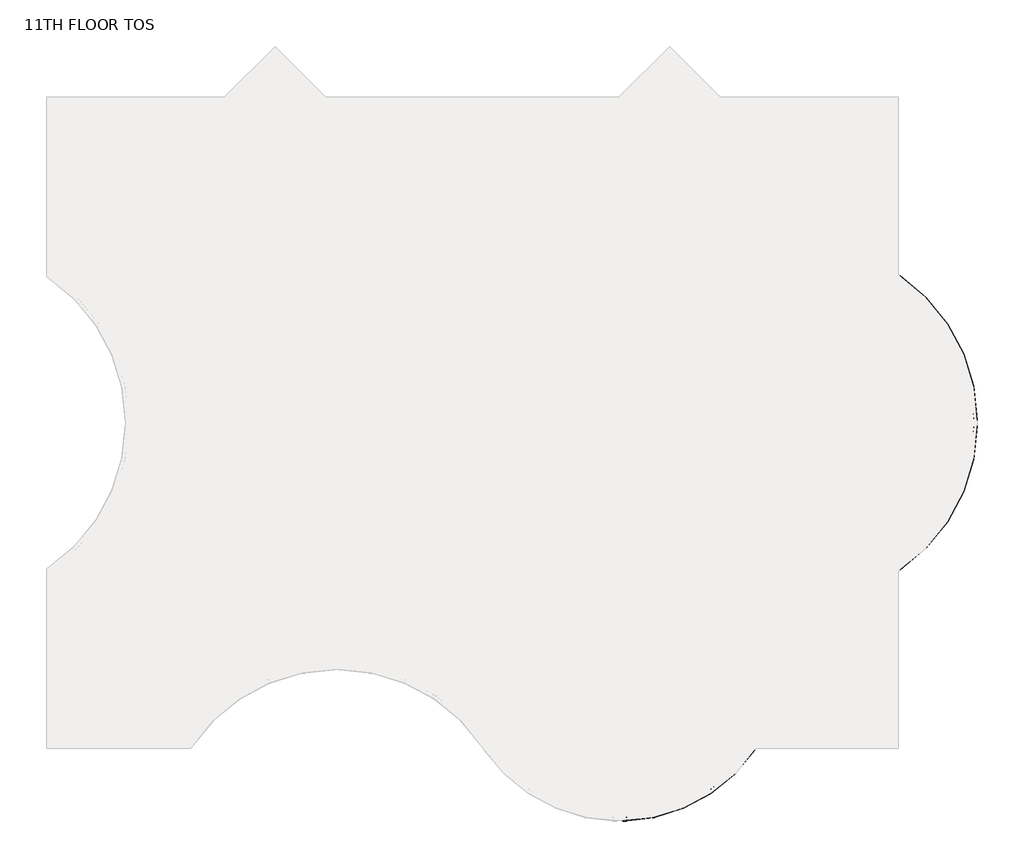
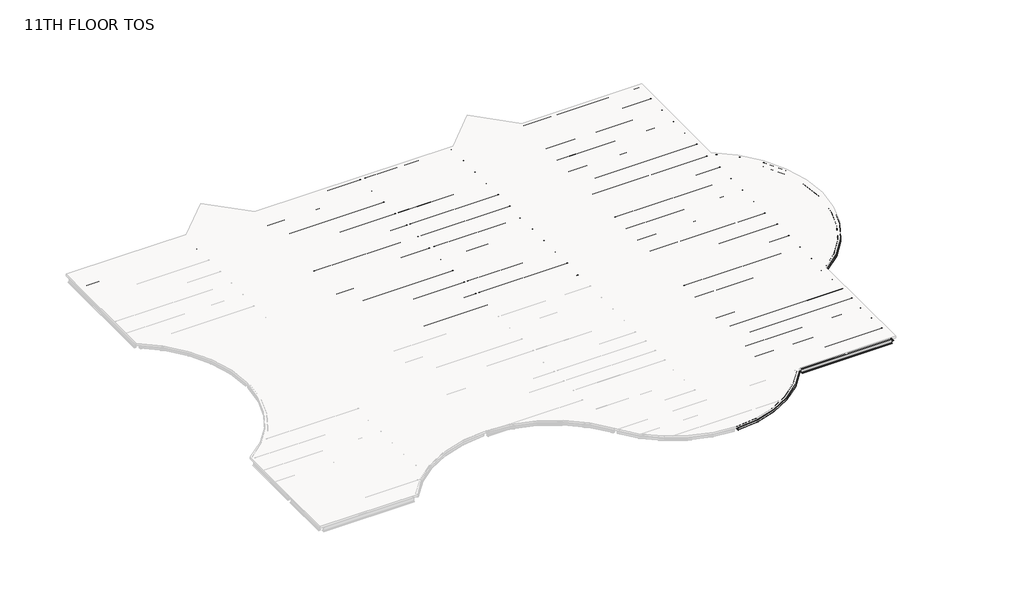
# One storey, part 2 of 2: 110 beams.
"""IFC4 building model written with IfcOpenShell, lengths in millimetres."""

from ifc_helpers import new_model, si_unit, origin, place, context, project, spatial, transform, mapped, element, save
from components import m_hss_square_hss203_2x203_2x9_5_28e91a4e, m_hss_square_hss203_2x203_2x9_5_f31329aa, m_hss_square_hss203_2x203_2x9_5_63507dff, ub_universal_beams_ub254x102x28_7812688d, ub_universal_beams_ub254x102x28_4a38c177, ub_universal_beams_ub305x165x40_c4d0385b, ub_universal_beams_ub305x165x40_19965e16, ub_universal_beams_ub305x165x40_d3abc31d, ub_universal_beams_ub305x165x40_0c73730f, ub_universal_beams_ub305x165x40_2a963f0c, ub_universal_beams_ub305x165x40_9ce7f2ee, ub_universal_beams_ub305x165x40_d184adfd, ub_universal_beams_ub305x165x40_bc7dc938, ub_universal_beams_ub305x165x40_b4233d25, ub_universal_beams_ub356x171x51_c708c058, ub_universal_beams_ub356x171x51_ef72dcdd, ub_universal_beams_ub356x171x51_10b3c54f, ub_universal_beams_ub356x171x51_4c9fd821, ub_universal_beams_ub356x171x51_d1a87c3c, ub_universal_beams_ub356x171x51_fa75724b, ub_universal_beams_ub356x171x51_68db896e, ub_universal_beams_ub356x171x51_c634c4a6, ub_universal_beams_ub356x171x51_995f1560, ub_universal_beams_ub356x171x51_dfc36663, ub_universal_beams_ub356x171x51_11d6b780, ub_universal_beams_ub356x171x51_76b2d20b, ub_universal_beams_ub356x171x51_145ecd4b, ub_universal_beams_ub356x171x51_c7dff8d2, ub_universal_beams_ub356x171x51_8a345439, ub_universal_beams_ub356x171x51_6da510e9, ub_universal_beams_ub356x171x51_e97f8d2e, ub_universal_beams_ub356x171x51_a38b99de, ub_universal_beams_ub356x171x51_d8f4cdde, ub_universal_beams_ub356x171x51_475301e6, ub_universal_beams_ub356x171x51_c03c70fb, ub_universal_beams_ub356x171x51_741bae58

model = new_model("IFC4")

# Units and contexts
model_context = context("Model", 3, world=origin())
ifc_project = project(units=[si_unit("LENGTHUNIT", "METRE", prefix="MILLI")], contexts=[model_context])

# Site, building, storey
site = spatial("IfcSite", under=ifc_project)
building = spatial("IfcBuilding", under=site)
storey = spatial("IfcBuildingStorey", under=building, Name="11TH FLOOR TOS", Elevation=50139.6)

# Beams
placement = place(None, origin())
m_hss_square_hss203_2x203_2x9_5_shape = m_hss_square_hss203_2x203_2x9_5_28e91a4e(model_context)
element("IfcBeam", 1, ObjectType="M_HSS Square : HSS203.2X203.2X9.5", at=placement, inside=storey, context=model_context, shape_type="MappedRepresentation", body=[
    mapped(m_hss_square_hss203_2x203_2x9_5_shape, transform((44027.575, 24539.575, 50038.1), x_axis=(0.8332810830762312, -0.5528495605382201, 0.0), y_axis=(0.5528495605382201, 0.8332810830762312, 0.0), z_axis=(0.0, 0.0, 1.0))),
])
m_hss_square_hss203_2x203_2x9_5_2_shape = m_hss_square_hss203_2x203_2x9_5_f31329aa(model_context)
element("IfcBeam", 2, ObjectType="M_HSS Square : HSS203.2X203.2X9.5", at=placement, inside=storey, context=model_context, shape_type="MappedRepresentation", body=[
    mapped(m_hss_square_hss203_2x203_2x9_5_2_shape, transform((44027.575, 9299.575, 50038.1), x_axis=(0.8332810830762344, 0.5528495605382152, 0.0), y_axis=(-0.5528495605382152, 0.8332810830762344, 0.0), z_axis=(0.0, 0.0, 1.0))),
])
m_hss_square_hss203_2x203_2x9_5_3_shape = m_hss_square_hss203_2x203_2x9_5_63507dff(model_context)
element("IfcBeam", 3, ObjectType="M_HSS Square : HSS203.2X203.2X9.5", at=placement, inside=storey, context=model_context, shape_type="MappedRepresentation", body=[
    mapped(m_hss_square_hss203_2x203_2x9_5_3_shape, transform((36716.575, 155.575, 50038.1), x_axis=(-0.5530174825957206, -0.8331696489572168, 0.0), y_axis=(0.8331696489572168, -0.5530174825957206, 0.0), z_axis=(0.0, 0.0, 1.0))),
])
ub_universal_beams_ub254x102x28_shape = ub_universal_beams_ub254x102x28_7812688d(model_context)
element("IfcBeam", 4, ObjectType="UB-Universal Beams : UB254x102x28", at=placement, inside=storey, context=model_context, shape_type="MappedRepresentation", body=[
    mapped(ub_universal_beams_ub254x102x28_shape, transform((10592.575, 34976.575, 50009.4), x_axis=(0.7071067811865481, 0.7071067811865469, 0.0), y_axis=(-0.7071067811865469, 0.7071067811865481, 0.0), z_axis=(0.0, 0.0, 1.0))),
])
element("IfcBeam", 5, ObjectType="UB-Universal Beams : UB254x102x28", at=placement, inside=storey, context=model_context, shape_type="MappedRepresentation", body=[
    mapped(ub_universal_beams_ub254x102x28_shape, transform((31004.575, 34976.575, 50009.4), x_axis=(0.7071067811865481, 0.7071067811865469, 0.0), y_axis=(-0.7071067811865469, 0.7071067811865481, 0.0), z_axis=(0.0, 0.0, 1.0))),
])
ub_universal_beams_ub254x102x28_2_shape = ub_universal_beams_ub254x102x28_4a38c177(model_context)
element("IfcBeam", 6, ObjectType="UB-Universal Beams : UB254x102x28", at=placement, inside=storey, context=model_context, shape_type="MappedRepresentation", body=[
    mapped(ub_universal_beams_ub254x102x28_2_shape, transform((13178.575, 34976.575, 50009.4), x_axis=(0.707106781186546, -0.707106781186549, 0.0), y_axis=(0.707106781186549, 0.707106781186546, 0.0), z_axis=(0.0, 0.0, 1.0))),
])
element("IfcBeam", 7, ObjectType="UB-Universal Beams : UB254x102x28", at=placement, inside=storey, context=model_context, shape_type="MappedRepresentation", body=[
    mapped(ub_universal_beams_ub254x102x28_2_shape, transform((33590.575, 34976.575, 50009.4), x_axis=(0.7071067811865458, -0.7071067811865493, 0.0), y_axis=(0.7071067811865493, 0.7071067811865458, 0.0), z_axis=(0.0, 0.0, 1.0))),
])
ub_universal_beams_ub305x165x40_shape = ub_universal_beams_ub305x165x40_c4d0385b(model_context)
element("IfcBeam", 8, ObjectType="UB-Universal Beams : UB305x165x40", at=placement, inside=storey, context=model_context, shape_type="MappedRepresentation", body=[
    mapped(ub_universal_beams_ub305x165x40_shape, transform((4727.575, 32159.575, 49987.9), x_axis=(1.0, 0.0, 0.0), y_axis=(0.0, 1.0, 0.0), z_axis=(0.0, 0.0, 1.0))),
])
element("IfcBeam", 9, ObjectType="UB-Universal Beams : UB305x165x40", at=placement, inside=storey, context=model_context, shape_type="MappedRepresentation", body=[
    mapped(ub_universal_beams_ub305x165x40_shape, transform((39455.575, 32159.575, 49987.9), x_axis=(1.0, 0.0, 0.0), y_axis=(0.0, 1.0, 0.0), z_axis=(0.0, 0.0, 1.0))),
])
element("IfcBeam", 10, ObjectType="UB-Universal Beams : UB305x165x40", at=placement, inside=storey, context=model_context, shape_type="MappedRepresentation", body=[
    mapped(ub_universal_beams_ub305x165x40_shape, transform((39455.575, 30635.575, 49987.9), x_axis=(1.0, 0.0, 0.0), y_axis=(0.0, 1.0, 0.0), z_axis=(0.0, 0.0, 1.0))),
])
element("IfcBeam", 11, ObjectType="UB-Universal Beams : UB305x165x40", at=placement, inside=storey, context=model_context, shape_type="MappedRepresentation", body=[
    mapped(ub_universal_beams_ub305x165x40_shape, transform((39455.575, 29111.575, 49987.9), x_axis=(1.0, 0.0, 0.0), y_axis=(0.0, 1.0, 0.0), z_axis=(0.0, 0.0, 1.0))),
])
element("IfcBeam", 12, ObjectType="UB-Universal Beams : UB305x165x40", at=placement, inside=storey, context=model_context, shape_type="MappedRepresentation", body=[
    mapped(ub_universal_beams_ub305x165x40_shape, transform((39455.575, 27587.575, 49987.9), x_axis=(1.0, 0.0, 0.0), y_axis=(0.0, 1.0, 0.0), z_axis=(0.0, 0.0, 1.0))),
])
element("IfcBeam", 13, ObjectType="UB-Universal Beams : UB305x165x40", at=placement, inside=storey, context=model_context, shape_type="MappedRepresentation", body=[
    mapped(ub_universal_beams_ub305x165x40_shape, transform((39455.575, 26063.575, 49987.9), x_axis=(1.0, 0.0, 0.0), y_axis=(0.0, 1.0, 0.0), z_axis=(0.0, 0.0, 1.0))),
])
element("IfcBeam", 14, ObjectType="UB-Universal Beams : UB305x165x40", at=placement, inside=storey, context=model_context, shape_type="MappedRepresentation", body=[
    mapped(ub_universal_beams_ub305x165x40_shape, transform((39455.575, 23015.575, 49987.9), x_axis=(1.0, 0.0, 0.0), y_axis=(0.0, 1.0, 0.0), z_axis=(0.0, 0.0, 1.0))),
])
element("IfcBeam", 15, ObjectType="UB-Universal Beams : UB305x165x40", at=placement, inside=storey, context=model_context, shape_type="MappedRepresentation", body=[
    mapped(ub_universal_beams_ub305x165x40_shape, transform((39455.575, 21491.575, 49987.9), x_axis=(1.0, 0.0, 0.0), y_axis=(0.0, 1.0, 0.0), z_axis=(0.0, 0.0, 1.0))),
])
element("IfcBeam", 16, ObjectType="UB-Universal Beams : UB305x165x40", at=placement, inside=storey, context=model_context, shape_type="MappedRepresentation", body=[
    mapped(ub_universal_beams_ub305x165x40_shape, transform((39455.575, 19967.575, 49987.9), x_axis=(1.0, 0.0, 0.0), y_axis=(0.0, 1.0, 0.0), z_axis=(0.0, 0.0, 1.0))),
])
element("IfcBeam", 17, ObjectType="UB-Universal Beams : UB305x165x40", at=placement, inside=storey, context=model_context, shape_type="MappedRepresentation", body=[
    mapped(ub_universal_beams_ub305x165x40_shape, transform((39455.575, 18443.575, 49987.9), x_axis=(1.0, 0.0, 0.0), y_axis=(0.0, 1.0, 0.0), z_axis=(0.0, 0.0, 1.0))),
])
element("IfcBeam", 18, ObjectType="UB-Universal Beams : UB305x165x40", at=placement, inside=storey, context=model_context, shape_type="MappedRepresentation", body=[
    mapped(ub_universal_beams_ub305x165x40_shape, transform((39455.575, 15395.575, 49987.9), x_axis=(1.0, 0.0, 0.0), y_axis=(0.0, 1.0, 0.0), z_axis=(0.0, 0.0, 1.0))),
])
element("IfcBeam", 19, ObjectType="UB-Universal Beams : UB305x165x40", at=placement, inside=storey, context=model_context, shape_type="MappedRepresentation", body=[
    mapped(ub_universal_beams_ub305x165x40_shape, transform((39455.575, 13871.575, 49987.9), x_axis=(1.0, 0.0, 0.0), y_axis=(0.0, 1.0, 0.0), z_axis=(0.0, 0.0, 1.0))),
])
element("IfcBeam", 20, ObjectType="UB-Universal Beams : UB305x165x40", at=placement, inside=storey, context=model_context, shape_type="MappedRepresentation", body=[
    mapped(ub_universal_beams_ub305x165x40_shape, transform((39455.575, 12347.575, 49987.9), x_axis=(1.0, 0.0, 0.0), y_axis=(0.0, 1.0, 0.0), z_axis=(0.0, 0.0, 1.0))),
])
element("IfcBeam", 21, ObjectType="UB-Universal Beams : UB305x165x40", at=placement, inside=storey, context=model_context, shape_type="MappedRepresentation", body=[
    mapped(ub_universal_beams_ub305x165x40_shape, transform((39455.575, 10823.575, 49987.9), x_axis=(1.0, 0.0, 0.0), y_axis=(0.0, 1.0, 0.0), z_axis=(0.0, 0.0, 1.0))),
])
element("IfcBeam", 22, ObjectType="UB-Universal Beams : UB305x165x40", at=placement, inside=storey, context=model_context, shape_type="MappedRepresentation", body=[
    mapped(ub_universal_beams_ub305x165x40_shape, transform((39455.575, 5508.325, 49987.9), x_axis=(-1.0, 0.0, 0.0), y_axis=(0.0, -1.0, 0.0), z_axis=(0.0, 0.0, 1.0))),
])
element("IfcBeam", 23, ObjectType="UB-Universal Beams : UB305x165x40", at=placement, inside=storey, context=model_context, shape_type="MappedRepresentation", body=[
    mapped(ub_universal_beams_ub305x165x40_shape, transform((39455.575, 6772.075, 49987.9), x_axis=(-1.0, 0.0, 0.0), y_axis=(0.0, -1.0, 0.0), z_axis=(0.0, 0.0, 1.0))),
])
element("IfcBeam", 24, ObjectType="UB-Universal Beams : UB305x165x40", at=placement, inside=storey, context=model_context, shape_type="MappedRepresentation", body=[
    mapped(ub_universal_beams_ub305x165x40_shape, transform((39455.575, 8035.825, 49987.9), x_axis=(-1.0, 0.0, 0.0), y_axis=(0.0, -1.0, 0.0), z_axis=(0.0, 0.0, 1.0))),
])
element("IfcBeam", 25, ObjectType="UB-Universal Beams : UB305x165x40", at=placement, inside=storey, context=model_context, shape_type="MappedRepresentation", body=[
    mapped(ub_universal_beams_ub305x165x40_shape, transform((39455.575, 1518.575, 49987.9), x_axis=(-1.0, 0.0, 0.0), y_axis=(0.0, -1.0, 0.0), z_axis=(0.0, 0.0, 1.0))),
])
element("IfcBeam", 26, ObjectType="UB-Universal Beams : UB305x165x40", at=placement, inside=storey, context=model_context, shape_type="MappedRepresentation", body=[
    mapped(ub_universal_beams_ub305x165x40_shape, transform((39455.575, 2881.575, 49987.9), x_axis=(-1.0, 0.0, 0.0), y_axis=(0.0, -1.0, 0.0), z_axis=(0.0, 0.0, 1.0))),
])
ub_universal_beams_ub305x165x40_2_shape = ub_universal_beams_ub305x165x40_19965e16(model_context)
element("IfcBeam", 27, ObjectType="UB-Universal Beams : UB305x165x40", at=placement, inside=storey, context=model_context, shape_type="MappedRepresentation", body=[
    mapped(ub_universal_beams_ub305x165x40_2_shape, transform((11885.575, 34803.325, 49987.9), x_axis=(1.0, 0.0, 0.0), y_axis=(0.0, 1.0, 0.0), z_axis=(0.0, 0.0, 1.0))),
])
element("IfcBeam", 28, ObjectType="UB-Universal Beams : UB305x165x40", at=placement, inside=storey, context=model_context, shape_type="MappedRepresentation", body=[
    mapped(ub_universal_beams_ub305x165x40_2_shape, transform((32297.575, 34803.325, 49987.9), x_axis=(1.0, 0.0, 0.0), y_axis=(0.0, 1.0, 0.0), z_axis=(0.0, 0.0, 1.0))),
])
ub_universal_beams_ub305x165x40_3_shape = ub_universal_beams_ub305x165x40_d3abc31d(model_context)
element("IfcBeam", 29, ObjectType="UB-Universal Beams : UB305x165x40", at=placement, inside=storey, context=model_context, shape_type="MappedRepresentation", body=[
    mapped(ub_universal_beams_ub305x165x40_3_shape, transform((11885.575, 33337.075, 49987.9), x_axis=(1.0, 0.0, 0.0), y_axis=(0.0, 1.0, 0.0), z_axis=(0.0, 0.0, 1.0))),
])
element("IfcBeam", 30, ObjectType="UB-Universal Beams : UB305x165x40", at=placement, inside=storey, context=model_context, shape_type="MappedRepresentation", body=[
    mapped(ub_universal_beams_ub305x165x40_3_shape, transform((11885.575, 31870.825, 49987.9), x_axis=(1.0, 0.0, 0.0), y_axis=(0.0, 1.0, 0.0), z_axis=(0.0, 0.0, 1.0))),
])
element("IfcBeam", 31, ObjectType="UB-Universal Beams : UB305x165x40", at=placement, inside=storey, context=model_context, shape_type="MappedRepresentation", body=[
    mapped(ub_universal_beams_ub305x165x40_3_shape, transform((11885.575, 30404.575, 49987.9), x_axis=(1.0, 0.0, 0.0), y_axis=(0.0, 1.0, 0.0), z_axis=(0.0, 0.0, 1.0))),
])
element("IfcBeam", 32, ObjectType="UB-Universal Beams : UB305x165x40", at=placement, inside=storey, context=model_context, shape_type="MappedRepresentation", body=[
    mapped(ub_universal_beams_ub305x165x40_3_shape, transform((32297.575, 33337.075, 49987.9), x_axis=(1.0, 0.0, 0.0), y_axis=(0.0, 1.0, 0.0), z_axis=(0.0, 0.0, 1.0))),
])
element("IfcBeam", 33, ObjectType="UB-Universal Beams : UB305x165x40", at=placement, inside=storey, context=model_context, shape_type="MappedRepresentation", body=[
    mapped(ub_universal_beams_ub305x165x40_3_shape, transform((32297.575, 31870.825, 49987.9), x_axis=(1.0, 0.0, 0.0), y_axis=(0.0, 1.0, 0.0), z_axis=(0.0, 0.0, 1.0))),
])
element("IfcBeam", 34, ObjectType="UB-Universal Beams : UB305x165x40", at=placement, inside=storey, context=model_context, shape_type="MappedRepresentation", body=[
    mapped(ub_universal_beams_ub305x165x40_3_shape, transform((32297.575, 30404.575, 49987.9), x_axis=(1.0, 0.0, 0.0), y_axis=(0.0, 1.0, 0.0), z_axis=(0.0, 0.0, 1.0))),
])
element("IfcBeam", 35, ObjectType="UB-Universal Beams : UB305x165x40", at=placement, inside=storey, context=model_context, shape_type="MappedRepresentation", body=[
    mapped(ub_universal_beams_ub305x165x40_3_shape, transform((32297.575, 28938.325, 49987.9), x_axis=(1.0, 0.0, 0.0), y_axis=(0.0, 1.0, 0.0), z_axis=(0.0, 0.0, 1.0))),
])
element("IfcBeam", 36, ObjectType="UB-Universal Beams : UB305x165x40", at=placement, inside=storey, context=model_context, shape_type="MappedRepresentation", body=[
    mapped(ub_universal_beams_ub305x165x40_3_shape, transform((32297.575, 27472.075, 49987.9), x_axis=(1.0, 0.0, 0.0), y_axis=(0.0, 1.0, 0.0), z_axis=(0.0, 0.0, 1.0))),
])
element("IfcBeam", 37, ObjectType="UB-Universal Beams : UB305x165x40", at=placement, inside=storey, context=model_context, shape_type="MappedRepresentation", body=[
    mapped(ub_universal_beams_ub305x165x40_3_shape, transform((32297.575, 26005.825, 49987.9), x_axis=(1.0, 0.0, 0.0), y_axis=(0.0, 1.0, 0.0), z_axis=(0.0, 0.0, 1.0))),
])
element("IfcBeam", 38, ObjectType="UB-Universal Beams : UB305x165x40", at=placement, inside=storey, context=model_context, shape_type="MappedRepresentation", body=[
    mapped(ub_universal_beams_ub305x165x40_3_shape, transform((32297.575, 1518.575, 49987.9), x_axis=(-1.0, 0.0, 0.0), y_axis=(0.0, -1.0, 0.0), z_axis=(0.0, 0.0, 1.0))),
])
element("IfcBeam", 39, ObjectType="UB-Universal Beams : UB305x165x40", at=placement, inside=storey, context=model_context, shape_type="MappedRepresentation", body=[
    mapped(ub_universal_beams_ub305x165x40_3_shape, transform((32297.575, 2881.575, 49987.9), x_axis=(-1.0, 0.0, 0.0), y_axis=(0.0, -1.0, 0.0), z_axis=(0.0, 0.0, 1.0))),
])
element("IfcBeam", 40, ObjectType="UB-Universal Beams : UB305x165x40", at=placement, inside=storey, context=model_context, shape_type="MappedRepresentation", body=[
    mapped(ub_universal_beams_ub305x165x40_3_shape, transform((32297.575, 5508.325, 49987.9), x_axis=(-1.0, 0.0, 0.0), y_axis=(0.0, -1.0, 0.0), z_axis=(0.0, 0.0, 1.0))),
])
element("IfcBeam", 41, ObjectType="UB-Universal Beams : UB305x165x40", at=placement, inside=storey, context=model_context, shape_type="MappedRepresentation", body=[
    mapped(ub_universal_beams_ub305x165x40_3_shape, transform((32297.575, 6772.075, 49987.9), x_axis=(-1.0, 0.0, 0.0), y_axis=(0.0, -1.0, 0.0), z_axis=(0.0, 0.0, 1.0))),
])
element("IfcBeam", 42, ObjectType="UB-Universal Beams : UB305x165x40", at=placement, inside=storey, context=model_context, shape_type="MappedRepresentation", body=[
    mapped(ub_universal_beams_ub305x165x40_3_shape, transform((32297.575, 8035.825, 49987.9), x_axis=(-1.0, 0.0, 0.0), y_axis=(0.0, -1.0, 0.0), z_axis=(0.0, 0.0, 1.0))),
])
element("IfcBeam", 43, ObjectType="UB-Universal Beams : UB305x165x40", at=placement, inside=storey, context=model_context, shape_type="MappedRepresentation", body=[
    mapped(ub_universal_beams_ub305x165x40_3_shape, transform((32297.575, 15395.575, 49987.9), x_axis=(1.0, 0.0, 0.0), y_axis=(0.0, 1.0, 0.0), z_axis=(0.0, 0.0, 1.0))),
])
element("IfcBeam", 44, ObjectType="UB-Universal Beams : UB305x165x40", at=placement, inside=storey, context=model_context, shape_type="MappedRepresentation", body=[
    mapped(ub_universal_beams_ub305x165x40_3_shape, transform((32297.575, 13871.575, 49987.9), x_axis=(1.0, 0.0, 0.0), y_axis=(0.0, 1.0, 0.0), z_axis=(0.0, 0.0, 1.0))),
])
element("IfcBeam", 45, ObjectType="UB-Universal Beams : UB305x165x40", at=placement, inside=storey, context=model_context, shape_type="MappedRepresentation", body=[
    mapped(ub_universal_beams_ub305x165x40_3_shape, transform((32297.575, 12347.575, 49987.9), x_axis=(1.0, 0.0, 0.0), y_axis=(0.0, 1.0, 0.0), z_axis=(0.0, 0.0, 1.0))),
])
element("IfcBeam", 46, ObjectType="UB-Universal Beams : UB305x165x40", at=placement, inside=storey, context=model_context, shape_type="MappedRepresentation", body=[
    mapped(ub_universal_beams_ub305x165x40_3_shape, transform((32297.575, 10823.575, 49987.9), x_axis=(1.0, 0.0, 0.0), y_axis=(0.0, 1.0, 0.0), z_axis=(0.0, 0.0, 1.0))),
])
element("IfcBeam", 47, ObjectType="UB-Universal Beams : UB305x165x40", at=placement, inside=storey, context=model_context, shape_type="MappedRepresentation", body=[
    mapped(ub_universal_beams_ub305x165x40_3_shape, transform((32297.575, 23015.575, 49987.9), x_axis=(1.0, 0.0, 0.0), y_axis=(0.0, 1.0, 0.0), z_axis=(0.0, 0.0, 1.0))),
])
element("IfcBeam", 48, ObjectType="UB-Universal Beams : UB305x165x40", at=placement, inside=storey, context=model_context, shape_type="MappedRepresentation", body=[
    mapped(ub_universal_beams_ub305x165x40_3_shape, transform((32297.575, 21491.575, 49987.9), x_axis=(1.0, 0.0, 0.0), y_axis=(0.0, 1.0, 0.0), z_axis=(0.0, 0.0, 1.0))),
])
element("IfcBeam", 49, ObjectType="UB-Universal Beams : UB305x165x40", at=placement, inside=storey, context=model_context, shape_type="MappedRepresentation", body=[
    mapped(ub_universal_beams_ub305x165x40_3_shape, transform((32297.575, 19967.575, 49987.9), x_axis=(1.0, 0.0, 0.0), y_axis=(0.0, 1.0, 0.0), z_axis=(0.0, 0.0, 1.0))),
])
element("IfcBeam", 50, ObjectType="UB-Universal Beams : UB305x165x40", at=placement, inside=storey, context=model_context, shape_type="MappedRepresentation", body=[
    mapped(ub_universal_beams_ub305x165x40_3_shape, transform((32297.575, 18443.575, 49987.9), x_axis=(1.0, 0.0, 0.0), y_axis=(0.0, 1.0, 0.0), z_axis=(0.0, 0.0, 1.0))),
])
ub_universal_beams_ub305x165x40_4_shape = ub_universal_beams_ub305x165x40_0c73730f(model_context)
element("IfcBeam", 51, ObjectType="UB-Universal Beams : UB305x165x40", at=placement, inside=storey, context=model_context, shape_type="MappedRepresentation", body=[
    mapped(ub_universal_beams_ub305x165x40_4_shape, transform((18591.075, 32159.575, 49987.9), x_axis=(1.0, 0.0, 0.0), y_axis=(0.0, 1.0, 0.0), z_axis=(0.0, 0.0, 1.0))),
])
element("IfcBeam", 52, ObjectType="UB-Universal Beams : UB305x165x40", at=placement, inside=storey, context=model_context, shape_type="MappedRepresentation", body=[
    mapped(ub_universal_beams_ub305x165x40_4_shape, transform((18591.075, 30635.575, 49987.9), x_axis=(1.0, 0.0, 0.0), y_axis=(0.0, 1.0, 0.0), z_axis=(0.0, 0.0, 1.0))),
])
element("IfcBeam", 53, ObjectType="UB-Universal Beams : UB305x165x40", at=placement, inside=storey, context=model_context, shape_type="MappedRepresentation", body=[
    mapped(ub_universal_beams_ub305x165x40_4_shape, transform((18591.075, 29111.575, 49987.9), x_axis=(1.0, 0.0, 0.0), y_axis=(0.0, 1.0, 0.0), z_axis=(0.0, 0.0, 1.0))),
])
element("IfcBeam", 54, ObjectType="UB-Universal Beams : UB305x165x40", at=placement, inside=storey, context=model_context, shape_type="MappedRepresentation", body=[
    mapped(ub_universal_beams_ub305x165x40_4_shape, transform((18591.075, 27587.575, 49987.9), x_axis=(1.0, 0.0, 0.0), y_axis=(0.0, 1.0, 0.0), z_axis=(0.0, 0.0, 1.0))),
])
element("IfcBeam", 55, ObjectType="UB-Universal Beams : UB305x165x40", at=placement, inside=storey, context=model_context, shape_type="MappedRepresentation", body=[
    mapped(ub_universal_beams_ub305x165x40_4_shape, transform((18591.075, 26063.575, 49987.9), x_axis=(1.0, 0.0, 0.0), y_axis=(0.0, 1.0, 0.0), z_axis=(0.0, 0.0, 1.0))),
])
element("IfcBeam", 56, ObjectType="UB-Universal Beams : UB305x165x40", at=placement, inside=storey, context=model_context, shape_type="MappedRepresentation", body=[
    mapped(ub_universal_beams_ub305x165x40_4_shape, transform((18591.075, 23015.575, 49987.9), x_axis=(1.0, 0.0, 0.0), y_axis=(0.0, 1.0, 0.0), z_axis=(0.0, 0.0, 1.0))),
])
element("IfcBeam", 57, ObjectType="UB-Universal Beams : UB305x165x40", at=placement, inside=storey, context=model_context, shape_type="MappedRepresentation", body=[
    mapped(ub_universal_beams_ub305x165x40_4_shape, transform((18591.075, 21491.575, 49987.9), x_axis=(1.0, 0.0, 0.0), y_axis=(0.0, 1.0, 0.0), z_axis=(0.0, 0.0, 1.0))),
])
element("IfcBeam", 58, ObjectType="UB-Universal Beams : UB305x165x40", at=placement, inside=storey, context=model_context, shape_type="MappedRepresentation", body=[
    mapped(ub_universal_beams_ub305x165x40_4_shape, transform((18591.075, 19967.575, 49987.9), x_axis=(1.0, 0.0, 0.0), y_axis=(0.0, 1.0, 0.0), z_axis=(0.0, 0.0, 1.0))),
])
element("IfcBeam", 59, ObjectType="UB-Universal Beams : UB305x165x40", at=placement, inside=storey, context=model_context, shape_type="MappedRepresentation", body=[
    mapped(ub_universal_beams_ub305x165x40_4_shape, transform((18591.075, 18443.575, 49987.9), x_axis=(1.0, 0.0, 0.0), y_axis=(0.0, 1.0, 0.0), z_axis=(0.0, 0.0, 1.0))),
])
ub_universal_beams_ub305x165x40_5_shape = ub_universal_beams_ub305x165x40_2a963f0c(model_context)
element("IfcBeam", 60, ObjectType="UB-Universal Beams : UB305x165x40", at=placement, inside=storey, context=model_context, shape_type="MappedRepresentation", body=[
    mapped(ub_universal_beams_ub305x165x40_5_shape, transform((26211.075, 32159.575, 49987.9), x_axis=(1.0, 0.0, 0.0), y_axis=(0.0, 1.0, 0.0), z_axis=(0.0, 0.0, 1.0))),
])
element("IfcBeam", 61, ObjectType="UB-Universal Beams : UB305x165x40", at=placement, inside=storey, context=model_context, shape_type="MappedRepresentation", body=[
    mapped(ub_universal_beams_ub305x165x40_5_shape, transform((26211.075, 30635.575, 49987.9), x_axis=(1.0, 0.0, 0.0), y_axis=(0.0, 1.0, 0.0), z_axis=(0.0, 0.0, 1.0))),
])
element("IfcBeam", 62, ObjectType="UB-Universal Beams : UB305x165x40", at=placement, inside=storey, context=model_context, shape_type="MappedRepresentation", body=[
    mapped(ub_universal_beams_ub305x165x40_5_shape, transform((26211.075, 29111.575, 49987.9), x_axis=(1.0, 0.0, 0.0), y_axis=(0.0, 1.0, 0.0), z_axis=(0.0, 0.0, 1.0))),
])
element("IfcBeam", 63, ObjectType="UB-Universal Beams : UB305x165x40", at=placement, inside=storey, context=model_context, shape_type="MappedRepresentation", body=[
    mapped(ub_universal_beams_ub305x165x40_5_shape, transform((26211.075, 27587.575, 49987.9), x_axis=(1.0, 0.0, 0.0), y_axis=(0.0, 1.0, 0.0), z_axis=(0.0, 0.0, 1.0))),
])
element("IfcBeam", 64, ObjectType="UB-Universal Beams : UB305x165x40", at=placement, inside=storey, context=model_context, shape_type="MappedRepresentation", body=[
    mapped(ub_universal_beams_ub305x165x40_5_shape, transform((26211.075, 26063.575, 49987.9), x_axis=(1.0, 0.0, 0.0), y_axis=(0.0, 1.0, 0.0), z_axis=(0.0, 0.0, 1.0))),
])
element("IfcBeam", 65, ObjectType="UB-Universal Beams : UB305x165x40", at=placement, inside=storey, context=model_context, shape_type="MappedRepresentation", body=[
    mapped(ub_universal_beams_ub305x165x40_5_shape, transform((26211.075, 23015.575, 49987.9), x_axis=(1.0, 0.0, 0.0), y_axis=(0.0, 1.0, 0.0), z_axis=(0.0, 0.0, 1.0))),
])
element("IfcBeam", 66, ObjectType="UB-Universal Beams : UB305x165x40", at=placement, inside=storey, context=model_context, shape_type="MappedRepresentation", body=[
    mapped(ub_universal_beams_ub305x165x40_5_shape, transform((26211.075, 21491.575, 49987.9), x_axis=(1.0, 0.0, 0.0), y_axis=(0.0, 1.0, 0.0), z_axis=(0.0, 0.0, 1.0))),
])
element("IfcBeam", 67, ObjectType="UB-Universal Beams : UB305x165x40", at=placement, inside=storey, context=model_context, shape_type="MappedRepresentation", body=[
    mapped(ub_universal_beams_ub305x165x40_5_shape, transform((26211.075, 19967.575, 49987.9), x_axis=(1.0, 0.0, 0.0), y_axis=(0.0, 1.0, 0.0), z_axis=(0.0, 0.0, 1.0))),
])
element("IfcBeam", 68, ObjectType="UB-Universal Beams : UB305x165x40", at=placement, inside=storey, context=model_context, shape_type="MappedRepresentation", body=[
    mapped(ub_universal_beams_ub305x165x40_5_shape, transform((26211.075, 18443.575, 49987.9), x_axis=(1.0, 0.0, 0.0), y_axis=(0.0, 1.0, 0.0), z_axis=(0.0, 0.0, 1.0))),
])
ub_universal_beams_ub305x165x40_6_shape = ub_universal_beams_ub305x165x40_9ce7f2ee(model_context)
element("IfcBeam", 69, ObjectType="UB-Universal Beams : UB305x165x40", at=placement, inside=storey, context=model_context, shape_type="MappedRepresentation", body=[
    mapped(ub_universal_beams_ub305x165x40_6_shape, transform((44907.9405309, 23015.575, 49987.9), x_axis=(1.0, 0.0, 0.0), y_axis=(0.0, 1.0, 0.0), z_axis=(0.0, 0.0, 1.0))),
])
element("IfcBeam", 70, ObjectType="UB-Universal Beams : UB305x165x40", at=placement, inside=storey, context=model_context, shape_type="MappedRepresentation", body=[
    mapped(ub_universal_beams_ub305x165x40_6_shape, transform((44907.9405309, 10823.575, 49987.9), x_axis=(1.0, 0.0, 0.0), y_axis=(0.0, 1.0, 0.0), z_axis=(0.0, 0.0, 1.0))),
])
ub_universal_beams_ub305x165x40_7_shape = ub_universal_beams_ub305x165x40_d184adfd(model_context)
element("IfcBeam", 71, ObjectType="UB-Universal Beams : UB305x165x40", at=placement, inside=storey, context=model_context, shape_type="MappedRepresentation", body=[
    mapped(ub_universal_beams_ub305x165x40_7_shape, transform((45459.5874928, 21491.575, 49987.9), x_axis=(1.0, 0.0, 0.0), y_axis=(0.0, 1.0, 0.0), z_axis=(0.0, 0.0, 1.0))),
])
element("IfcBeam", 72, ObjectType="UB-Universal Beams : UB305x165x40", at=placement, inside=storey, context=model_context, shape_type="MappedRepresentation", body=[
    mapped(ub_universal_beams_ub305x165x40_7_shape, transform((45459.5874928, 12347.575, 49987.9), x_axis=(1.0, 0.0, 0.0), y_axis=(0.0, 1.0, 0.0), z_axis=(0.0, 0.0, 1.0))),
])
ub_universal_beams_ub305x165x40_8_shape = ub_universal_beams_ub305x165x40_bc7dc938(model_context)
element("IfcBeam", 73, ObjectType="UB-Universal Beams : UB305x165x40", at=placement, inside=storey, context=model_context, shape_type="MappedRepresentation", body=[
    mapped(ub_universal_beams_ub305x165x40_8_shape, transform((45810.6153272, 19967.575, 49987.9), x_axis=(1.0, 0.0, 0.0), y_axis=(0.0, 1.0, 0.0), z_axis=(0.0, 0.0, 1.0))),
])
element("IfcBeam", 74, ObjectType="UB-Universal Beams : UB305x165x40", at=placement, inside=storey, context=model_context, shape_type="MappedRepresentation", body=[
    mapped(ub_universal_beams_ub305x165x40_8_shape, transform((45810.6153272, 13871.575, 49987.9), x_axis=(1.0, 0.0, 0.0), y_axis=(0.0, 1.0, 0.0), z_axis=(0.0, 0.0, 1.0))),
])
ub_universal_beams_ub305x165x40_9_shape = ub_universal_beams_ub305x165x40_b4233d25(model_context)
element("IfcBeam", 75, ObjectType="UB-Universal Beams : UB305x165x40", at=placement, inside=storey, context=model_context, shape_type="MappedRepresentation", body=[
    mapped(ub_universal_beams_ub305x165x40_9_shape, transform((46008.1318611, 18443.575, 49987.9), x_axis=(1.0, 0.0, 0.0), y_axis=(0.0, 1.0, 0.0), z_axis=(0.0, 0.0, 1.0))),
])
element("IfcBeam", 76, ObjectType="UB-Universal Beams : UB305x165x40", at=placement, inside=storey, context=model_context, shape_type="MappedRepresentation", body=[
    mapped(ub_universal_beams_ub305x165x40_9_shape, transform((46008.1318611, 15395.575, 49987.9), x_axis=(1.0, 0.0, 0.0), y_axis=(0.0, 1.0, 0.0), z_axis=(0.0, 0.0, 1.0))),
])
ub_universal_beams_ub356x171x51_shape = ub_universal_beams_ub356x171x51_c708c058(model_context)
element("IfcBeam", 77, ObjectType="UB-Universal Beams : UB356x171x51", at=placement, inside=storey, context=model_context, shape_type="MappedRepresentation", body=[
    mapped(ub_universal_beams_ub356x171x51_shape, transform((2200.075, 33683.575, 49962.1), x_axis=(1.0, 0.0, 0.0), y_axis=(0.0, 1.0, 0.0), z_axis=(0.0, 0.0, 1.0))),
])
ub_universal_beams_ub356x171x51_2_shape = ub_universal_beams_ub356x171x51_ef72dcdd(model_context)
element("IfcBeam", 78, ObjectType="UB-Universal Beams : UB356x171x51", at=placement, inside=storey, context=model_context, shape_type="MappedRepresentation", body=[
    mapped(ub_universal_beams_ub356x171x51_2_shape, transform((6772.075, 33683.575, 49962.1), x_axis=(1.0, 0.0, 0.0), y_axis=(0.0, 1.0, 0.0), z_axis=(0.0, 0.0, 1.0))),
])
element("IfcBeam", 79, ObjectType="UB-Universal Beams : UB356x171x51", at=placement, inside=storey, context=model_context, shape_type="MappedRepresentation", body=[
    mapped(ub_universal_beams_ub356x171x51_2_shape, transform((34883.575, 6772.075, 49962.1), x_axis=(0.0, -1.0, 0.0), y_axis=(1.0, 0.0, 0.0), z_axis=(0.0, 0.0, 1.0))),
])
ub_universal_beams_ub356x171x51_3_shape = ub_universal_beams_ub356x171x51_10b3c54f(model_context)
element("IfcBeam", 80, ObjectType="UB-Universal Beams : UB356x171x51", at=placement, inside=storey, context=model_context, shape_type="MappedRepresentation", body=[
    mapped(ub_universal_beams_ub356x171x51_3_shape, transform((18591.075, 33683.575, 49962.1), x_axis=(1.0, 0.0, 0.0), y_axis=(0.0, 1.0, 0.0), z_axis=(0.0, 0.0, 1.0))),
])
ub_universal_beams_ub356x171x51_4_shape = ub_universal_beams_ub356x171x51_4c9fd821(model_context)
element("IfcBeam", 81, ObjectType="UB-Universal Beams : UB356x171x51", at=placement, inside=storey, context=model_context, shape_type="MappedRepresentation", body=[
    mapped(ub_universal_beams_ub356x171x51_4_shape, transform((26211.075, 33683.575, 49962.1), x_axis=(1.0, 0.0, 0.0), y_axis=(0.0, 1.0, 0.0), z_axis=(0.0, 0.0, 1.0))),
])
ub_universal_beams_ub356x171x51_5_shape = ub_universal_beams_ub356x171x51_d1a87c3c(model_context)
element("IfcBeam", 82, ObjectType="UB-Universal Beams : UB356x171x51", at=placement, inside=storey, context=model_context, shape_type="MappedRepresentation", body=[
    mapped(ub_universal_beams_ub356x171x51_5_shape, transform((39455.575, 33683.575, 49962.1), x_axis=(1.0, 0.0, 0.0), y_axis=(0.0, 1.0, 0.0), z_axis=(0.0, 0.0, 1.0))),
])
ub_universal_beams_ub356x171x51_6_shape = ub_universal_beams_ub356x171x51_fa75724b(model_context)
element("IfcBeam", 83, ObjectType="UB-Universal Beams : UB356x171x51", at=placement, inside=storey, context=model_context, shape_type="MappedRepresentation", body=[
    mapped(ub_universal_beams_ub356x171x51_6_shape, transform((44027.575, 29111.575, 49962.1), x_axis=(0.0, -1.0, 0.0), y_axis=(1.0, 0.0, 0.0), z_axis=(0.0, 0.0, 1.0))),
])
ub_universal_beams_ub356x171x51_7_shape = ub_universal_beams_ub356x171x51_68db896e(model_context)
element("IfcBeam", 84, ObjectType="UB-Universal Beams : UB356x171x51", at=placement, inside=storey, context=model_context, shape_type="MappedRepresentation", body=[
    mapped(ub_universal_beams_ub356x171x51_7_shape, transform((44027.575, 6772.075, 49962.1), x_axis=(0.0, -1.0, 0.0), y_axis=(1.0, 0.0, 0.0), z_axis=(0.0, 0.0, 1.0))),
])
ub_universal_beams_ub356x171x51_8_shape = ub_universal_beams_ub356x171x51_c634c4a6(model_context)
element("IfcBeam", 85, ObjectType="UB-Universal Beams : UB356x171x51", at=placement, inside=storey, context=model_context, shape_type="MappedRepresentation", body=[
    mapped(ub_universal_beams_ub356x171x51_8_shape, transform((44027.575, 2200.075, 49962.1), x_axis=(0.0, -1.0, 0.0), y_axis=(1.0, 0.0, 0.0), z_axis=(0.0, 0.0, 1.0))),
])
ub_universal_beams_ub356x171x51_9_shape = ub_universal_beams_ub356x171x51_995f1560(model_context)
element("IfcBeam", 86, ObjectType="UB-Universal Beams : UB356x171x51", at=placement, inside=storey, context=model_context, shape_type="MappedRepresentation", body=[
    mapped(ub_universal_beams_ub356x171x51_9_shape, transform((40372.075, 155.575, 49962.1), x_axis=(-1.0, 0.0, 0.0), y_axis=(0.0, -1.0, 0.0), z_axis=(0.0, 0.0, 1.0))),
])
ub_universal_beams_ub356x171x51_10_shape = ub_universal_beams_ub356x171x51_dfc36663(model_context)
element("IfcBeam", 87, ObjectType="UB-Universal Beams : UB356x171x51", at=placement, inside=storey, context=model_context, shape_type="MappedRepresentation", body=[
    mapped(ub_universal_beams_ub356x171x51_10_shape, transform((46072.075, 16919.575, 49962.1), x_axis=(1.0, 0.0, 0.0), y_axis=(0.0, 1.0, 0.0), z_axis=(0.0, 0.0, 1.0))),
])
ub_universal_beams_ub356x171x51_11_shape = ub_universal_beams_ub356x171x51_11d6b780(model_context)
element("IfcBeam", 88, ObjectType="UB-Universal Beams : UB356x171x51", at=placement, inside=storey, context=model_context, shape_type="MappedRepresentation", body=[
    mapped(ub_universal_beams_ub356x171x51_11_shape, transform((32297.575, 24539.575, 49962.1), x_axis=(1.0, 0.0, 0.0), y_axis=(0.0, 1.0, 0.0), z_axis=(0.0, 0.0, 1.0))),
])
element("IfcBeam", 89, ObjectType="UB-Universal Beams : UB356x171x51", at=placement, inside=storey, context=model_context, shape_type="MappedRepresentation", body=[
    mapped(ub_universal_beams_ub356x171x51_11_shape, transform((32297.575, 9299.575, 49962.1), x_axis=(-1.0, 0.0, 0.0), y_axis=(0.0, -1.0, 0.0), z_axis=(0.0, 0.0, 1.0))),
])
element("IfcBeam", 90, ObjectType="UB-Universal Beams : UB356x171x51", at=placement, inside=storey, context=model_context, shape_type="MappedRepresentation", body=[
    mapped(ub_universal_beams_ub356x171x51_11_shape, transform((32297.575, 16919.575, 49962.1), x_axis=(1.0, 0.0, 0.0), y_axis=(0.0, 1.0, 0.0), z_axis=(0.0, 0.0, 1.0))),
])
element("IfcBeam", 91, ObjectType="UB-Universal Beams : UB356x171x51", at=placement, inside=storey, context=model_context, shape_type="MappedRepresentation", body=[
    mapped(ub_universal_beams_ub356x171x51_11_shape, transform((32297.575, 4244.575, 49962.1), x_axis=(-1.0, 0.0, 0.0), y_axis=(0.0, -1.0, 0.0), z_axis=(0.0, 0.0, 1.0))),
])
ub_universal_beams_ub356x171x51_12_shape = ub_universal_beams_ub356x171x51_76b2d20b(model_context)
element("IfcBeam", 92, ObjectType="UB-Universal Beams : UB356x171x51", at=placement, inside=storey, context=model_context, shape_type="MappedRepresentation", body=[
    mapped(ub_universal_beams_ub356x171x51_12_shape, transform((18591.075, 24539.575, 49962.1), x_axis=(1.0, 0.0, 0.0), y_axis=(0.0, 1.0, 0.0), z_axis=(0.0, 0.0, 1.0))),
])
element("IfcBeam", 93, ObjectType="UB-Universal Beams : UB356x171x51", at=placement, inside=storey, context=model_context, shape_type="MappedRepresentation", body=[
    mapped(ub_universal_beams_ub356x171x51_12_shape, transform((18591.075, 16919.575, 49962.1), x_axis=(1.0, 0.0, 0.0), y_axis=(0.0, 1.0, 0.0), z_axis=(0.0, 0.0, 1.0))),
])
ub_universal_beams_ub356x171x51_13_shape = ub_universal_beams_ub356x171x51_145ecd4b(model_context)
element("IfcBeam", 94, ObjectType="UB-Universal Beams : UB356x171x51", at=placement, inside=storey, context=model_context, shape_type="MappedRepresentation", body=[
    mapped(ub_universal_beams_ub356x171x51_13_shape, transform((26211.075, 24539.575, 49962.1), x_axis=(1.0, 0.0, 0.0), y_axis=(0.0, 1.0, 0.0), z_axis=(0.0, 0.0, 1.0))),
])
element("IfcBeam", 95, ObjectType="UB-Universal Beams : UB356x171x51", at=placement, inside=storey, context=model_context, shape_type="MappedRepresentation", body=[
    mapped(ub_universal_beams_ub356x171x51_13_shape, transform((26211.075, 16919.575, 49962.1), x_axis=(1.0, 0.0, 0.0), y_axis=(0.0, 1.0, 0.0), z_axis=(0.0, 0.0, 1.0))),
])
ub_universal_beams_ub356x171x51_14_shape = ub_universal_beams_ub356x171x51_c7dff8d2(model_context)
element("IfcBeam", 96, ObjectType="UB-Universal Beams : UB356x171x51", at=placement, inside=storey, context=model_context, shape_type="MappedRepresentation", body=[
    mapped(ub_universal_beams_ub356x171x51_14_shape, transform((39455.575, 24539.575, 49962.1), x_axis=(1.0, 0.0, 0.0), y_axis=(0.0, 1.0, 0.0), z_axis=(0.0, 0.0, 1.0))),
])
ub_universal_beams_ub356x171x51_15_shape = ub_universal_beams_ub356x171x51_8a345439(model_context)
element("IfcBeam", 97, ObjectType="UB-Universal Beams : UB356x171x51", at=placement, inside=storey, context=model_context, shape_type="MappedRepresentation", body=[
    mapped(ub_universal_beams_ub356x171x51_15_shape, transform((44027.575, 20729.575, 49962.1), x_axis=(0.0, -1.0, 0.0), y_axis=(1.0, 0.0, 0.0), z_axis=(0.0, 0.0, 1.0))),
])
ub_universal_beams_ub356x171x51_16_shape = ub_universal_beams_ub356x171x51_6da510e9(model_context)
element("IfcBeam", 98, ObjectType="UB-Universal Beams : UB356x171x51", at=placement, inside=storey, context=model_context, shape_type="MappedRepresentation", body=[
    mapped(ub_universal_beams_ub356x171x51_16_shape, transform((44027.575, 13109.575, 49962.1), x_axis=(0.0, -1.0, 0.0), y_axis=(1.0, 0.0, 0.0), z_axis=(0.0, 0.0, 1.0))),
])
ub_universal_beams_ub356x171x51_17_shape = ub_universal_beams_ub356x171x51_e97f8d2e(model_context)
element("IfcBeam", 99, ObjectType="UB-Universal Beams : UB356x171x51", at=placement, inside=storey, context=model_context, shape_type="MappedRepresentation", body=[
    mapped(ub_universal_beams_ub356x171x51_17_shape, transform((39455.575, 9299.575, 49962.1), x_axis=(-1.0, 0.0, 0.0), y_axis=(0.0, -1.0, 0.0), z_axis=(0.0, 0.0, 1.0))),
])
ub_universal_beams_ub356x171x51_18_shape = ub_universal_beams_ub356x171x51_a38b99de(model_context)
element("IfcBeam", 100, ObjectType="UB-Universal Beams : UB356x171x51", at=placement, inside=storey, context=model_context, shape_type="MappedRepresentation", body=[
    mapped(ub_universal_beams_ub356x171x51_18_shape, transform((34883.575, 20729.575, 49962.1), x_axis=(0.0, -1.0, 0.0), y_axis=(1.0, 0.0, 0.0), z_axis=(0.0, 0.0, 1.0))),
])
element("IfcBeam", 101, ObjectType="UB-Universal Beams : UB356x171x51", at=placement, inside=storey, context=model_context, shape_type="MappedRepresentation", body=[
    mapped(ub_universal_beams_ub356x171x51_18_shape, transform((34883.575, 13109.575, 49962.1), x_axis=(0.0, -1.0, 0.0), y_axis=(1.0, 0.0, 0.0), z_axis=(0.0, 0.0, 1.0))),
])
element("IfcBeam", 102, ObjectType="UB-Universal Beams : UB356x171x51", at=placement, inside=storey, context=model_context, shape_type="MappedRepresentation", body=[
    mapped(ub_universal_beams_ub356x171x51_18_shape, transform((22710.575, 20729.575, 49962.1), x_axis=(0.0, -1.0, 0.0), y_axis=(1.0, 0.0, 0.0), z_axis=(0.0, 0.0, 1.0))),
])
element("IfcBeam", 103, ObjectType="UB-Universal Beams : UB356x171x51", at=placement, inside=storey, context=model_context, shape_type="MappedRepresentation", body=[
    mapped(ub_universal_beams_ub356x171x51_18_shape, transform((29711.575, 20729.575, 49962.1), x_axis=(0.0, 1.0, 0.0), y_axis=(-1.0, 0.0, 0.0), z_axis=(0.0, 0.0, 1.0))),
])
ub_universal_beams_ub356x171x51_19_shape = ub_universal_beams_ub356x171x51_d8f4cdde(model_context)
element("IfcBeam", 104, ObjectType="UB-Universal Beams : UB356x171x51", at=placement, inside=storey, context=model_context, shape_type="MappedRepresentation", body=[
    mapped(ub_universal_beams_ub356x171x51_19_shape, transform((29711.575, 29111.575, 49962.1), x_axis=(0.0, 1.0, 0.0), y_axis=(-1.0, 0.0, 0.0), z_axis=(0.0, 0.0, 1.0))),
])
ub_universal_beams_ub356x171x51_20_shape = ub_universal_beams_ub356x171x51_475301e6(model_context)
element("IfcBeam", 105, ObjectType="UB-Universal Beams : UB356x171x51", at=placement, inside=storey, context=model_context, shape_type="MappedRepresentation", body=[
    mapped(ub_universal_beams_ub356x171x51_20_shape, transform((39455.575, 16919.575, 49962.1), x_axis=(1.0, 0.0, 0.0), y_axis=(0.0, 1.0, 0.0), z_axis=(0.0, 0.0, 1.0))),
])
element("IfcBeam", 106, ObjectType="UB-Universal Beams : UB356x171x51", at=placement, inside=storey, context=model_context, shape_type="MappedRepresentation", body=[
    mapped(ub_universal_beams_ub356x171x51_20_shape, transform((39455.575, 4244.575, 49962.1), x_axis=(-1.0, 0.0, 0.0), y_axis=(0.0, -1.0, 0.0), z_axis=(0.0, 0.0, 1.0))),
])
ub_universal_beams_ub356x171x51_21_shape = ub_universal_beams_ub356x171x51_c03c70fb(model_context)
element("IfcBeam", 107, ObjectType="UB-Universal Beams : UB356x171x51", at=placement, inside=storey, context=model_context, shape_type="MappedRepresentation", body=[
    mapped(ub_universal_beams_ub356x171x51_21_shape, transform((34883.575, 29111.575, 49962.1), x_axis=(0.0, -1.0, 0.0), y_axis=(1.0, 0.0, 0.0), z_axis=(0.0, 0.0, 1.0))),
])
element("IfcBeam", 108, ObjectType="UB-Universal Beams : UB356x171x51", at=placement, inside=storey, context=model_context, shape_type="MappedRepresentation", body=[
    mapped(ub_universal_beams_ub356x171x51_21_shape, transform((14471.575, 29111.575, 49962.1), x_axis=(0.0, -1.0, 0.0), y_axis=(1.0, 0.0, 0.0), z_axis=(0.0, 0.0, 1.0))),
])
element("IfcBeam", 109, ObjectType="UB-Universal Beams : UB356x171x51", at=placement, inside=storey, context=model_context, shape_type="MappedRepresentation", body=[
    mapped(ub_universal_beams_ub356x171x51_21_shape, transform((22710.575, 29111.575, 49962.1), x_axis=(0.0, -1.0, 0.0), y_axis=(1.0, 0.0, 0.0), z_axis=(0.0, 0.0, 1.0))),
])
ub_universal_beams_ub356x171x51_22_shape = ub_universal_beams_ub356x171x51_741bae58(model_context)
element("IfcBeam", 110, ObjectType="UB-Universal Beams : UB356x171x51", at=placement, inside=storey, context=model_context, shape_type="MappedRepresentation", body=[
    mapped(ub_universal_beams_ub356x171x51_22_shape, transform((34883.575, 2200.075, 49962.1), x_axis=(0.0, -1.0, 0.0), y_axis=(1.0, 0.0, 0.0), z_axis=(0.0, 0.0, 1.0))),
])

save(model, "model.ifc")
